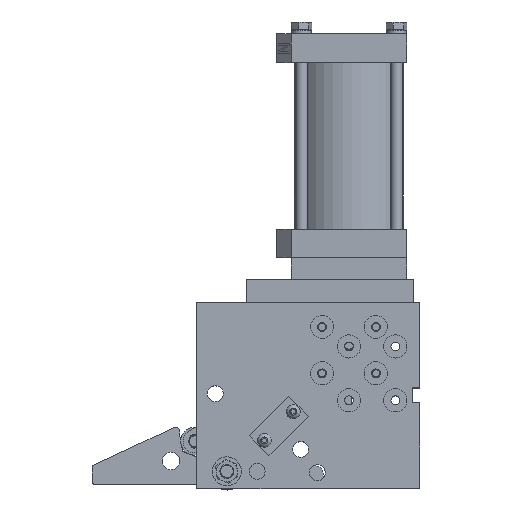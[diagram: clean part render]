
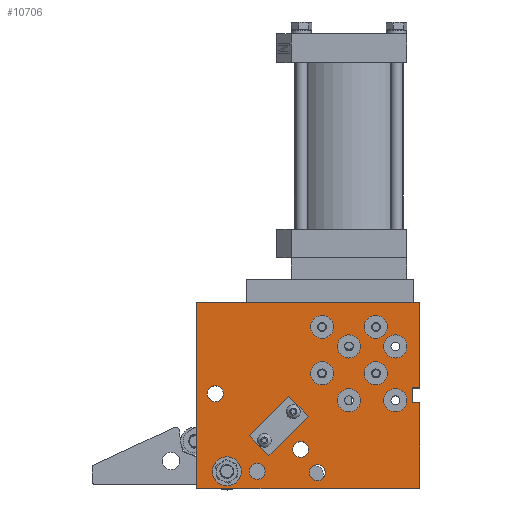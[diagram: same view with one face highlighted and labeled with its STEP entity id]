
A CAD part, top view. The second image highlights one B-rep face of the part: STEP entity #10706.
In plain terms, the highlighted planar face has unit normal (0, 0, 1) as drawn and (0, 0, -1) by its records, which use the part's own axes.
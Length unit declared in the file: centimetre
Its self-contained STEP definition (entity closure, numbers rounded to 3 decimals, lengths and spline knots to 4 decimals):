
#864=FACE_BOUND($,#3100,.T.);
#865=FACE_BOUND($,#3101,.T.);
#866=FACE_BOUND($,#3102,.T.);
#867=FACE_BOUND($,#3103,.T.);
#868=FACE_BOUND($,#3104,.T.);
#869=FACE_BOUND($,#3105,.T.);
#870=FACE_BOUND($,#3106,.T.);
#871=FACE_BOUND($,#3107,.T.);
#872=FACE_BOUND($,#3108,.T.);
#873=FACE_BOUND($,#3109,.T.);
#874=FACE_BOUND($,#3110,.T.);
#875=FACE_BOUND($,#3111,.T.);
#876=FACE_BOUND($,#3112,.T.);
#877=FACE_BOUND($,#3113,.T.);
#878=FACE_BOUND($,#3114,.T.);
#879=FACE_BOUND($,#3115,.T.);
#1418=CIRCLE($,#11523,0.7938);
#1420=CIRCLE($,#11527,0.9919);
#1422=CIRCLE($,#11530,0.2067);
#1424=CIRCLE($,#11533,0.2067);
#1451=CIRCLE($,#11578,0.7938);
#1454=CIRCLE($,#11584,0.7938);
#1457=CIRCLE($,#11590,0.7938);
#1460=CIRCLE($,#11596,0.7938);
#1463=CIRCLE($,#11602,0.7938);
#1466=CIRCLE($,#11608,0.7938);
#1469=CIRCLE($,#11614,0.7938);
#1472=CIRCLE($,#11620,0.7938);
#1474=CIRCLE($,#11624,0.5459);
#1476=CIRCLE($,#11627,0.5459);
#1478=CIRCLE($,#11630,0.5459);
#1480=CIRCLE($,#11633,0.5459);
#2262=FACE_OUTER_BOUND($,#3099,.T.);
#3099=EDGE_LOOP($,(#8002,#8003,#8004,#8005,#8006,#8007,#8008,#8009));
#3100=EDGE_LOOP($,(#8010));
#3101=EDGE_LOOP($,(#8011));
#3102=EDGE_LOOP($,(#8012));
#3103=EDGE_LOOP($,(#8013));
#3104=EDGE_LOOP($,(#8014));
#3105=EDGE_LOOP($,(#8015));
#3106=EDGE_LOOP($,(#8016));
#3107=EDGE_LOOP($,(#8017));
#3108=EDGE_LOOP($,(#8018));
#3109=EDGE_LOOP($,(#8019));
#3110=EDGE_LOOP($,(#8020));
#3111=EDGE_LOOP($,(#8021));
#3112=EDGE_LOOP($,(#8022));
#3113=EDGE_LOOP($,(#8023));
#3114=EDGE_LOOP($,(#8024));
#3115=EDGE_LOOP($,(#8025));
#4295=LINE($,#17532,#4799);
#4301=LINE($,#17544,#4805);
#4303=LINE($,#17547,#4807);
#4304=LINE($,#17550,#4808);
#4305=LINE($,#17552,#4809);
#4306=LINE($,#17554,#4810);
#4307=LINE($,#17556,#4811);
#4308=LINE($,#17557,#4812);
#4799=VECTOR($,#13502,0.5);
#4805=VECTOR($,#13510,0.5);
#4807=VECTOR($,#13514,1.);
#4808=VECTOR($,#13517,5.8268);
#4809=VECTOR($,#13518,15.24);
#4810=VECTOR($,#13519,12.7);
#4811=VECTOR($,#13520,15.24);
#4812=VECTOR($,#13521,5.8732);
#5380=VERTEX_POINT($,#17221);
#5382=VERTEX_POINT($,#17227);
#5384=VERTEX_POINT($,#17232);
#5386=VERTEX_POINT($,#17237);
#5413=VERTEX_POINT($,#17309);
#5416=VERTEX_POINT($,#17318);
#5419=VERTEX_POINT($,#17327);
#5422=VERTEX_POINT($,#17336);
#5425=VERTEX_POINT($,#17345);
#5428=VERTEX_POINT($,#17354);
#5431=VERTEX_POINT($,#17363);
#5434=VERTEX_POINT($,#17372);
#5436=VERTEX_POINT($,#17378);
#5438=VERTEX_POINT($,#17383);
#5440=VERTEX_POINT($,#17388);
#5442=VERTEX_POINT($,#17393);
#5466=VERTEX_POINT($,#17529);
#5467=VERTEX_POINT($,#17531);
#5469=VERTEX_POINT($,#17537);
#5472=VERTEX_POINT($,#17542);
#5473=VERTEX_POINT($,#17549);
#5474=VERTEX_POINT($,#17551);
#5475=VERTEX_POINT($,#17553);
#5476=VERTEX_POINT($,#17555);
#6420=EDGE_CURVE($,#5380,#5380,#1418,.T.);
#6422=EDGE_CURVE($,#5382,#5382,#1420,.T.);
#6424=EDGE_CURVE($,#5384,#5384,#1422,.T.);
#6426=EDGE_CURVE($,#5386,#5386,#1424,.T.);
#6453=EDGE_CURVE($,#5413,#5413,#1451,.T.);
#6456=EDGE_CURVE($,#5416,#5416,#1454,.T.);
#6459=EDGE_CURVE($,#5419,#5419,#1457,.T.);
#6462=EDGE_CURVE($,#5422,#5422,#1460,.T.);
#6465=EDGE_CURVE($,#5425,#5425,#1463,.T.);
#6468=EDGE_CURVE($,#5428,#5428,#1466,.T.);
#6471=EDGE_CURVE($,#5431,#5431,#1469,.T.);
#6474=EDGE_CURVE($,#5434,#5434,#1472,.T.);
#6476=EDGE_CURVE($,#5436,#5436,#1474,.T.);
#6478=EDGE_CURVE($,#5438,#5438,#1476,.T.);
#6480=EDGE_CURVE($,#5440,#5440,#1478,.T.);
#6482=EDGE_CURVE($,#5442,#5442,#1480,.T.);
#6516=EDGE_CURVE($,#5466,#5467,#4295,.T.);
#6522=EDGE_CURVE($,#5472,#5469,#4301,.T.);
#6524=EDGE_CURVE($,#5469,#5466,#4303,.T.);
#6525=EDGE_CURVE($,#5472,#5473,#4304,.T.);
#6526=EDGE_CURVE($,#5473,#5474,#4305,.T.);
#6527=EDGE_CURVE($,#5474,#5475,#4306,.T.);
#6528=EDGE_CURVE($,#5475,#5476,#4307,.T.);
#6529=EDGE_CURVE($,#5476,#5467,#4308,.T.);
#8002=ORIENTED_EDGE($,*,*,#6522,.F.);
#8003=ORIENTED_EDGE($,*,*,#6525,.T.);
#8004=ORIENTED_EDGE($,*,*,#6526,.T.);
#8005=ORIENTED_EDGE($,*,*,#6527,.T.);
#8006=ORIENTED_EDGE($,*,*,#6528,.T.);
#8007=ORIENTED_EDGE($,*,*,#6529,.T.);
#8008=ORIENTED_EDGE($,*,*,#6516,.F.);
#8009=ORIENTED_EDGE($,*,*,#6524,.F.);
#8010=ORIENTED_EDGE($,*,*,#6420,.F.);
#8011=ORIENTED_EDGE($,*,*,#6422,.F.);
#8012=ORIENTED_EDGE($,*,*,#6424,.F.);
#8013=ORIENTED_EDGE($,*,*,#6426,.F.);
#8014=ORIENTED_EDGE($,*,*,#6453,.F.);
#8015=ORIENTED_EDGE($,*,*,#6456,.F.);
#8016=ORIENTED_EDGE($,*,*,#6459,.F.);
#8017=ORIENTED_EDGE($,*,*,#6462,.F.);
#8018=ORIENTED_EDGE($,*,*,#6465,.F.);
#8019=ORIENTED_EDGE($,*,*,#6468,.F.);
#8020=ORIENTED_EDGE($,*,*,#6471,.F.);
#8021=ORIENTED_EDGE($,*,*,#6474,.F.);
#8022=ORIENTED_EDGE($,*,*,#6476,.F.);
#8023=ORIENTED_EDGE($,*,*,#6478,.F.);
#8024=ORIENTED_EDGE($,*,*,#6480,.F.);
#8025=ORIENTED_EDGE($,*,*,#6482,.F.);
#10261=PLANE($,#11688);
#10706=ADVANCED_FACE($,(#2262,#864,#865,#866,#867,#868,#869,#870,#871,#872,
#873,#874,#875,#876,#877,#878,#879),#10261,.F.);
#11523=AXIS2_PLACEMENT_3D($,#17222,#13175,#13176);
#11527=AXIS2_PLACEMENT_3D($,#17228,#13183,#13184);
#11530=AXIS2_PLACEMENT_3D($,#17233,#13189,#13190);
#11533=AXIS2_PLACEMENT_3D($,#17238,#13195,#13196);
#11578=AXIS2_PLACEMENT_3D($,#17310,#13285,#13286);
#11584=AXIS2_PLACEMENT_3D($,#17319,#13297,#13298);
#11590=AXIS2_PLACEMENT_3D($,#17328,#13309,#13310);
#11596=AXIS2_PLACEMENT_3D($,#17337,#13321,#13322);
#11602=AXIS2_PLACEMENT_3D($,#17346,#13333,#13334);
#11608=AXIS2_PLACEMENT_3D($,#17355,#13345,#13346);
#11614=AXIS2_PLACEMENT_3D($,#17364,#13357,#13358);
#11620=AXIS2_PLACEMENT_3D($,#17373,#13369,#13370);
#11624=AXIS2_PLACEMENT_3D($,#17379,#13377,#13378);
#11627=AXIS2_PLACEMENT_3D($,#17384,#13383,#13384);
#11630=AXIS2_PLACEMENT_3D($,#17389,#13389,#13390);
#11633=AXIS2_PLACEMENT_3D($,#17394,#13395,#13396);
#11688=AXIS2_PLACEMENT_3D($,#17548,#13515,#13516);
#13175=DIRECTION('center_axis',(0.,0.,-1.));
#13176=DIRECTION('ref_axis',(1.,0.,0.));
#13183=DIRECTION('center_axis',(0.,0.,-1.));
#13184=DIRECTION('ref_axis',(1.,0.,0.));
#13189=DIRECTION('center_axis',(0.,0.,-1.));
#13190=DIRECTION('ref_axis',(1.,0.,0.));
#13195=DIRECTION('center_axis',(0.,0.,-1.));
#13196=DIRECTION('ref_axis',(1.,0.,0.));
#13285=DIRECTION('center_axis',(0.,0.,-1.));
#13286=DIRECTION('ref_axis',(1.,0.,0.));
#13297=DIRECTION('center_axis',(0.,0.,-1.));
#13298=DIRECTION('ref_axis',(1.,0.,0.));
#13309=DIRECTION('center_axis',(0.,0.,-1.));
#13310=DIRECTION('ref_axis',(1.,0.,0.));
#13321=DIRECTION('center_axis',(0.,0.,-1.));
#13322=DIRECTION('ref_axis',(1.,0.,0.));
#13333=DIRECTION('center_axis',(0.,0.,-1.));
#13334=DIRECTION('ref_axis',(1.,0.,0.));
#13345=DIRECTION('center_axis',(0.,0.,-1.));
#13346=DIRECTION('ref_axis',(1.,0.,0.));
#13357=DIRECTION('center_axis',(0.,0.,-1.));
#13358=DIRECTION('ref_axis',(1.,0.,0.));
#13369=DIRECTION('center_axis',(0.,0.,-1.));
#13370=DIRECTION('ref_axis',(1.,0.,0.));
#13377=DIRECTION('center_axis',(0.,0.,-1.));
#13378=DIRECTION('ref_axis',(1.,0.,0.));
#13383=DIRECTION('center_axis',(0.,0.,-1.));
#13384=DIRECTION('ref_axis',(1.,0.,0.));
#13389=DIRECTION('center_axis',(0.,0.,-1.));
#13390=DIRECTION('ref_axis',(1.,0.,0.));
#13395=DIRECTION('center_axis',(0.,0.,-1.));
#13396=DIRECTION('ref_axis',(1.,0.,0.));
#13502=DIRECTION($,(-1.,0.,0.));
#13510=DIRECTION($,(1.,0.,0.));
#13514=DIRECTION($,(0.,-1.,0.));
#13515=DIRECTION('center_axis',(0.,0.,1.));
#13516=DIRECTION('ref_axis',(1.,0.,0.));
#13517=DIRECTION($,(0.,1.,0.));
#13518=DIRECTION($,(1.,0.,0.));
#13519=DIRECTION($,(0.,-1.,0.));
#13520=DIRECTION($,(-1.,0.,0.));
#13521=DIRECTION($,(0.,1.,0.));
#17221=CARTESIAN_POINT('',(-2.3735,2.4784,-1.27));
#17222=CARTESIAN_POINT('Origin',(-3.1673,2.4784,-1.27));
#17227=CARTESIAN_POINT('',(1.3806,-0.6204,-1.27));
#17228=CARTESIAN_POINT('Origin',(0.3887,-0.6204,-1.27));
#17232=CARTESIAN_POINT('',(-1.9728,1.4906,-1.27));
#17233=CARTESIAN_POINT('Origin',(-2.1795,1.4906,-1.27));
#17237=CARTESIAN_POINT('',(-3.9484,3.4662,-1.27));
#17238=CARTESIAN_POINT('Origin',(-4.1551,3.4662,-1.27));
#17309=CARTESIAN_POINT('',(-5.3326,6.0852,-1.27));
#17310=CARTESIAN_POINT('Origin',(-6.1264,6.0852,-1.27));
#17318=CARTESIAN_POINT('',(-7.1741,4.2437,-1.27));
#17319=CARTESIAN_POINT('Origin',(-7.9679,4.2437,-1.27));
#17327=CARTESIAN_POINT('',(-5.3326,9.2602,-1.27));
#17328=CARTESIAN_POINT('Origin',(-6.1264,9.2602,-1.27));
#17336=CARTESIAN_POINT('',(-7.1741,7.9267,-1.27));
#17337=CARTESIAN_POINT('Origin',(-7.9679,7.9267,-1.27));
#17345=CARTESIAN_POINT('',(-9.0156,6.0852,-1.27));
#17346=CARTESIAN_POINT('Origin',(-9.8094,6.0852,-1.27));
#17354=CARTESIAN_POINT('',(-10.3491,4.2437,-1.27));
#17355=CARTESIAN_POINT('Origin',(-11.1429,4.2437,-1.27));
#17363=CARTESIAN_POINT('',(-9.0156,9.2602,-1.27));
#17364=CARTESIAN_POINT('Origin',(-9.8094,9.2602,-1.27));
#17372=CARTESIAN_POINT('',(-10.3491,7.9267,-1.27));
#17373=CARTESIAN_POINT('Origin',(-11.1429,7.9267,-1.27));
#17378=CARTESIAN_POINT('',(-1.1355,-0.6204,-1.27));
#17379=CARTESIAN_POINT('Origin',(-1.6814,-0.6204,-1.27));
#17383=CARTESIAN_POINT('',(1.722,4.6882,-1.27));
#17384=CARTESIAN_POINT('Origin',(1.1761,4.6882,-1.27));
#17388=CARTESIAN_POINT('',(-4.12,0.8782,-1.27));
#17389=CARTESIAN_POINT('Origin',(-4.6659,0.8782,-1.27));
#17393=CARTESIAN_POINT('',(-5.263,-0.7093,-1.27));
#17394=CARTESIAN_POINT('Origin',(-5.8089,-0.7093,-1.27));
#17529=CARTESIAN_POINT('',(-12.2939,4.0844,-1.27));
#17531=CARTESIAN_POINT('',(-12.7939,4.0844,-1.27));
#17532=CARTESIAN_POINT($,(-8.9839,4.0844,-1.27));
#17537=CARTESIAN_POINT('',(-12.2939,5.0844,-1.27));
#17542=CARTESIAN_POINT('',(-12.7939,5.0844,-1.27));
#17544=CARTESIAN_POINT($,(-8.9839,5.0844,-1.27));
#17547=CARTESIAN_POINT($,(-12.2939,4.5728,-1.27));
#17548=CARTESIAN_POINT('Origin',(-5.1739,4.5612,-1.27));
#17549=CARTESIAN_POINT('',(-12.7939,10.9112,-1.27));
#17550=CARTESIAN_POINT($,(-12.7939,-1.7888,-1.27));
#17551=CARTESIAN_POINT('',(2.4461,10.9112,-1.27));
#17552=CARTESIAN_POINT($,(-12.7939,10.9112,-1.27));
#17553=CARTESIAN_POINT('',(2.4461,-1.7888,-1.27));
#17554=CARTESIAN_POINT($,(2.4461,10.9112,-1.27));
#17555=CARTESIAN_POINT('',(-12.7939,-1.7888,-1.27));
#17556=CARTESIAN_POINT($,(2.4461,-1.7888,-1.27));
#17557=CARTESIAN_POINT($,(-12.7939,-1.7888,-1.27));
